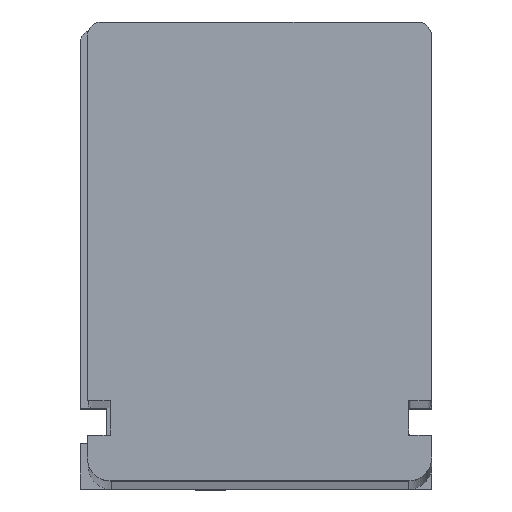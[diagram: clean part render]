
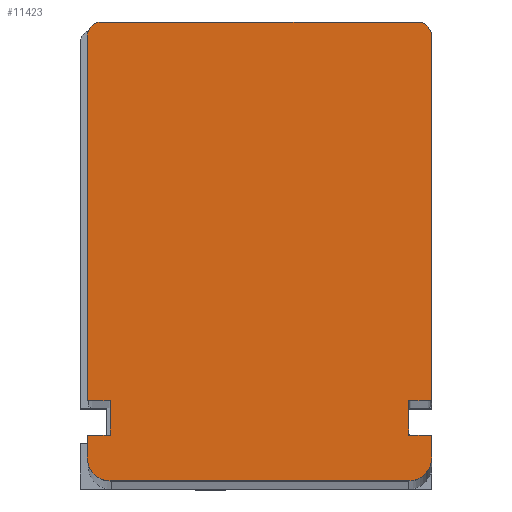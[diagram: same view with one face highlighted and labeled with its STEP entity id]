
A CAD part, top view. The second image highlights one B-rep face of the part: STEP entity #11423.
In plain terms, the highlighted planar face has unit normal (0, 0, 1).
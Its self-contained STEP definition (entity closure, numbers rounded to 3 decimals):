
#60 = CARTESIAN_POINT ( 'NONE',  ( 15., 7., 5.5 ) ) ;
#190 = ORIENTED_EDGE ( 'NONE', *, *, #27003, .T. ) ;
#330 = ORIENTED_EDGE ( 'NONE', *, *, #8569, .T. ) ;
#331 = ORIENTED_EDGE ( 'NONE', *, *, #17810, .T. ) ;
#449 = VECTOR ( 'NONE', #2227, 1000. ) ;
#924 = VECTOR ( 'NONE', #20484, 1000. ) ;
#1103 = CARTESIAN_POINT ( 'NONE',  ( -13.75, 40., 5.5 ) ) ;
#1201 = VERTEX_POINT ( 'NONE', #4008 ) ;
#1284 = EDGE_CURVE ( 'NONE', #7621, #4311, #20909, .T. ) ;
#1399 = DIRECTION ( 'NONE',  ( -1., 0., 0. ) ) ;
#1594 = LINE ( 'NONE', #26348, #5412 ) ;
#1624 = LINE ( 'NONE', #22718, #924 ) ;
#1649 = LINE ( 'NONE', #13114, #7865 ) ;
#1740 = VERTEX_POINT ( 'NONE', #5069 ) ;
#2098 = LINE ( 'NONE', #28403, #24439 ) ;
#2227 = DIRECTION ( 'NONE',  ( 0., -1., 0. ) ) ;
#2312 = EDGE_CURVE ( 'NONE', #6468, #9411, #1649, .T. ) ;
#2990 = EDGE_CURVE ( 'NONE', #7553, #9135, #1624, .T. ) ;
#3038 = CARTESIAN_POINT ( 'NONE',  ( 15., 2., 5.5 ) ) ;
#3557 = CARTESIAN_POINT ( 'NONE',  ( 13., 4., 5.5 ) ) ;
#3830 = DIRECTION ( 'NONE',  ( 0., 0., 1. ) ) ;
#3842 = DIRECTION ( 'NONE',  ( 0., 1., 0. ) ) ;
#3883 = EDGE_CURVE ( 'NONE', #5284, #11212, #1594, .T. ) ;
#3952 = VERTEX_POINT ( 'NONE', #8781 ) ;
#4008 = CARTESIAN_POINT ( 'NONE',  ( 13., 7., 5.5 ) ) ;
#4311 = VERTEX_POINT ( 'NONE', #28443 ) ;
#4646 = ORIENTED_EDGE ( 'NONE', *, *, #25174, .T. ) ;
#4714 = CARTESIAN_POINT ( 'NONE',  ( -15., 7., 5.5 ) ) ;
#5069 = CARTESIAN_POINT ( 'NONE',  ( -15., 38.75, 5.5 ) ) ;
#5216 = CIRCLE ( 'NONE', #19415, 1.25 ) ;
#5284 = VERTEX_POINT ( 'NONE', #18717 ) ;
#5412 = VECTOR ( 'NONE', #6226, 1000. ) ;
#5574 = ORIENTED_EDGE ( 'NONE', *, *, #1284, .T. ) ;
#5580 = EDGE_LOOP ( 'NONE', ( #9089, #25205, #14688, #7117, #190, #17510, #24621, #15155, #4646, #331, #22689, #17779, #330, #5574, #27628, #17131 ) ) ;
#5716 = VECTOR ( 'NONE', #3842, 1000. ) ;
#5854 = AXIS2_PLACEMENT_3D ( 'NONE', #28126, #14847, #1399 ) ;
#5934 = DIRECTION ( 'NONE',  ( 1., 0., 0. ) ) ;
#6226 = DIRECTION ( 'NONE',  ( -1., 0., 0. ) ) ;
#6468 = VERTEX_POINT ( 'NONE', #17426 ) ;
#6671 = CARTESIAN_POINT ( 'NONE',  ( 13.75, 38.75, 5.5 ) ) ;
#7036 = DIRECTION ( 'NONE',  ( 1., 0., 0. ) ) ;
#7073 = LINE ( 'NONE', #20115, #449 ) ;
#7117 = ORIENTED_EDGE ( 'NONE', *, *, #20207, .T. ) ;
#7423 = CARTESIAN_POINT ( 'NONE',  ( 13., 2., 5.5 ) ) ;
#7553 = VERTEX_POINT ( 'NONE', #7757 ) ;
#7621 = VERTEX_POINT ( 'NONE', #14778 ) ;
#7757 = CARTESIAN_POINT ( 'NONE',  ( -15., 7., 5.5 ) ) ;
#7788 = CARTESIAN_POINT ( 'NONE',  ( -13., 4., 5.5 ) ) ;
#7865 = VECTOR ( 'NONE', #28690, 1000. ) ;
#8569 = EDGE_CURVE ( 'NONE', #22392, #7621, #28641, .T. ) ;
#8781 = CARTESIAN_POINT ( 'NONE',  ( 15., 38.75, 5.5 ) ) ;
#8904 = DIRECTION ( 'NONE',  ( 1., 0., 0. ) ) ;
#8997 = EDGE_CURVE ( 'NONE', #3952, #6468, #5216, .T. ) ;
#9089 = ORIENTED_EDGE ( 'NONE', *, *, #27382, .T. ) ;
#9135 = VERTEX_POINT ( 'NONE', #9375 ) ;
#9160 = DIRECTION ( 'NONE',  ( 0., -1., 0. ) ) ;
#9191 = PLANE ( 'NONE',  #10039 ) ;
#9375 = CARTESIAN_POINT ( 'NONE',  ( -13., 7., 5.5 ) ) ;
#9411 = VERTEX_POINT ( 'NONE', #1103 ) ;
#9610 = VECTOR ( 'NONE', #25361, 1000. ) ;
#9664 = DIRECTION ( 'NONE',  ( 1., 0., 0. ) ) ;
#10030 = LINE ( 'NONE', #21605, #16052 ) ;
#10039 = AXIS2_PLACEMENT_3D ( 'NONE', #16007, #20471, #7036 ) ;
#10195 = CIRCLE ( 'NONE', #5854, 1.25 ) ;
#10381 = VECTOR ( 'NONE', #9160, 1000. ) ;
#10550 = EDGE_CURVE ( 'NONE', #12210, #24446, #10030, .T. ) ;
#11009 = LINE ( 'NONE', #19496, #5716 ) ;
#11212 = VERTEX_POINT ( 'NONE', #3557 ) ;
#11423 = ADVANCED_FACE ( 'NONE', ( #11781 ), #9191, .T. ) ;
#11523 = CIRCLE ( 'NONE', #21055, 2. ) ;
#11607 = CIRCLE ( 'NONE', #22296, 2. ) ;
#11708 = VECTOR ( 'NONE', #15735, 1000. ) ;
#11781 = FACE_OUTER_BOUND ( 'NONE', #5580, .T. ) ;
#12210 = VERTEX_POINT ( 'NONE', #23816 ) ;
#13114 = CARTESIAN_POINT ( 'NONE',  ( 13.75, 40., 5.5 ) ) ;
#13130 = LINE ( 'NONE', #4714, #11708 ) ;
#13828 = CARTESIAN_POINT ( 'NONE',  ( 13., 4., 5.5 ) ) ;
#14060 = VECTOR ( 'NONE', #24713, 1000. ) ;
#14688 = ORIENTED_EDGE ( 'NONE', *, *, #3883, .T. ) ;
#14769 = LINE ( 'NONE', #13828, #14060 ) ;
#14778 = CARTESIAN_POINT ( 'NONE',  ( -15., 4., 5.5 ) ) ;
#14847 = DIRECTION ( 'NONE',  ( 0., 0., 1. ) ) ;
#15155 = ORIENTED_EDGE ( 'NONE', *, *, #2312, .T. ) ;
#15735 = DIRECTION ( 'NONE',  ( 0., -1., 0. ) ) ;
#16007 = CARTESIAN_POINT ( 'NONE',  ( 13., 2., 5.5 ) ) ;
#16052 = VECTOR ( 'NONE', #5934, 1000. ) ;
#16392 = CARTESIAN_POINT ( 'NONE',  ( 15., 2., 5.5 ) ) ;
#16625 = EDGE_CURVE ( 'NONE', #18951, #5284, #21538, .T. ) ;
#17131 = ORIENTED_EDGE ( 'NONE', *, *, #10550, .T. ) ;
#17276 = CARTESIAN_POINT ( 'NONE',  ( -13., 2., 5.5 ) ) ;
#17426 = CARTESIAN_POINT ( 'NONE',  ( 13.75, 40., 5.5 ) ) ;
#17510 = ORIENTED_EDGE ( 'NONE', *, *, #23860, .T. ) ;
#17779 = ORIENTED_EDGE ( 'NONE', *, *, #24705, .T. ) ;
#17810 = EDGE_CURVE ( 'NONE', #1740, #7553, #13130, .T. ) ;
#18097 = DIRECTION ( 'NONE',  ( -1., 0., 0. ) ) ;
#18717 = CARTESIAN_POINT ( 'NONE',  ( 15., 4., 5.5 ) ) ;
#18951 = VERTEX_POINT ( 'NONE', #16392 ) ;
#19415 = AXIS2_PLACEMENT_3D ( 'NONE', #6671, #22338, #8904 ) ;
#19487 = DIRECTION ( 'NONE',  ( -1., 0., 0. ) ) ;
#19496 = CARTESIAN_POINT ( 'NONE',  ( 15., 7., 5.5 ) ) ;
#20016 = EDGE_CURVE ( 'NONE', #4311, #12210, #11607, .T. ) ;
#20115 = CARTESIAN_POINT ( 'NONE',  ( -13., 4., 5.5 ) ) ;
#20207 = EDGE_CURVE ( 'NONE', #11212, #1201, #14769, .T. ) ;
#20355 = CARTESIAN_POINT ( 'NONE',  ( -15., 2., 5.5 ) ) ;
#20471 = DIRECTION ( 'NONE',  ( 0., 0., 1. ) ) ;
#20484 = DIRECTION ( 'NONE',  ( 1., 0., 0. ) ) ;
#20909 = LINE ( 'NONE', #20355, #10381 ) ;
#21055 = AXIS2_PLACEMENT_3D ( 'NONE', #7423, #23082, #9664 ) ;
#21538 = LINE ( 'NONE', #3038, #9610 ) ;
#21605 = CARTESIAN_POINT ( 'NONE',  ( -13., 0., 5.5 ) ) ;
#22296 = AXIS2_PLACEMENT_3D ( 'NONE', #17276, #3830, #19487 ) ;
#22338 = DIRECTION ( 'NONE',  ( 0., 0., 1. ) ) ;
#22392 = VERTEX_POINT ( 'NONE', #7788 ) ;
#22689 = ORIENTED_EDGE ( 'NONE', *, *, #2990, .T. ) ;
#22718 = CARTESIAN_POINT ( 'NONE',  ( -13., 7., 5.5 ) ) ;
#23042 = CARTESIAN_POINT ( 'NONE',  ( 13., 0., 5.5 ) ) ;
#23082 = DIRECTION ( 'NONE',  ( 0., 0., 1. ) ) ;
#23511 = VERTEX_POINT ( 'NONE', #60 ) ;
#23816 = CARTESIAN_POINT ( 'NONE',  ( -13., 0., 5.5 ) ) ;
#23860 = EDGE_CURVE ( 'NONE', #23511, #3952, #11009, .T. ) ;
#24439 = VECTOR ( 'NONE', #26260, 1000. ) ;
#24446 = VERTEX_POINT ( 'NONE', #23042 ) ;
#24589 = CARTESIAN_POINT ( 'NONE',  ( -15., 4., 5.5 ) ) ;
#24621 = ORIENTED_EDGE ( 'NONE', *, *, #8997, .T. ) ;
#24705 = EDGE_CURVE ( 'NONE', #9135, #22392, #7073, .T. ) ;
#24713 = DIRECTION ( 'NONE',  ( 0., 1., 0. ) ) ;
#25174 = EDGE_CURVE ( 'NONE', #9411, #1740, #10195, .T. ) ;
#25205 = ORIENTED_EDGE ( 'NONE', *, *, #16625, .T. ) ;
#25361 = DIRECTION ( 'NONE',  ( 0., 1., 0. ) ) ;
#26260 = DIRECTION ( 'NONE',  ( 1., 0., 0. ) ) ;
#26348 = CARTESIAN_POINT ( 'NONE',  ( 15., 4., 5.5 ) ) ;
#27003 = EDGE_CURVE ( 'NONE', #1201, #23511, #2098, .T. ) ;
#27382 = EDGE_CURVE ( 'NONE', #24446, #18951, #11523, .T. ) ;
#27628 = ORIENTED_EDGE ( 'NONE', *, *, #20016, .T. ) ;
#27928 = VECTOR ( 'NONE', #18097, 1000. ) ;
#28126 = CARTESIAN_POINT ( 'NONE',  ( -13.75, 38.75, 5.5 ) ) ;
#28403 = CARTESIAN_POINT ( 'NONE',  ( 13., 7., 5.5 ) ) ;
#28443 = CARTESIAN_POINT ( 'NONE',  ( -15., 2., 5.5 ) ) ;
#28641 = LINE ( 'NONE', #24589, #27928 ) ;
#28690 = DIRECTION ( 'NONE',  ( -1., 0., 0. ) ) ;
